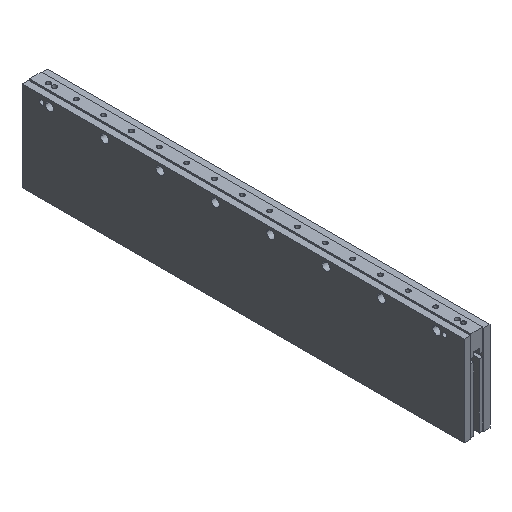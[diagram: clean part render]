
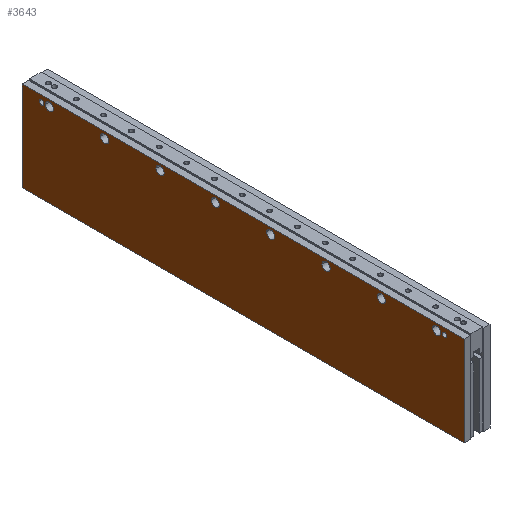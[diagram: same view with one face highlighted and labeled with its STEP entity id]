
A CAD part, isometric view. The second image highlights one B-rep face of the part: STEP entity #3643.
In plain terms, the highlighted planar face has unit normal (-1, 0, 0).
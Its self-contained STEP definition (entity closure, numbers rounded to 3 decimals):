
#709=DIRECTION('',(0.,0.,1.));
#710=VECTOR('',#709,103.97);
#711=CARTESIAN_POINT('',(-15.,255.65,-105.2));
#712=LINE('',#711,#710);
#757=DIRECTION('',(0.,0.,1.));
#758=VECTOR('',#757,103.97);
#759=CARTESIAN_POINT('',(-15.,-255.65,-105.2));
#760=LINE('',#759,#758);
#920=CARTESIAN_POINT('',(-15.,-224.,-8.23));
#921=DIRECTION('',(-1.,0.,0.));
#922=DIRECTION('',(0.,1.,0.));
#923=AXIS2_PLACEMENT_3D('',#920,#921,#922);
#925=CARTESIAN_POINT('',(-15.,-224.,-8.23));
#926=DIRECTION('',(-1.,0.,0.));
#927=DIRECTION('',(0.,-1.,0.));
#928=AXIS2_PLACEMENT_3D('',#925,#926,#927);
#930=CARTESIAN_POINT('',(-15.,-160.,-8.23));
#931=DIRECTION('',(-1.,0.,0.));
#932=DIRECTION('',(0.,1.,0.));
#933=AXIS2_PLACEMENT_3D('',#930,#931,#932);
#935=CARTESIAN_POINT('',(-15.,-160.,-8.23));
#936=DIRECTION('',(-1.,0.,0.));
#937=DIRECTION('',(0.,-1.,0.));
#938=AXIS2_PLACEMENT_3D('',#935,#936,#937);
#940=CARTESIAN_POINT('',(-15.,-96.,-8.23));
#941=DIRECTION('',(-1.,0.,0.));
#942=DIRECTION('',(0.,1.,0.));
#943=AXIS2_PLACEMENT_3D('',#940,#941,#942);
#945=CARTESIAN_POINT('',(-15.,-96.,-8.23));
#946=DIRECTION('',(-1.,0.,0.));
#947=DIRECTION('',(0.,-1.,0.));
#948=AXIS2_PLACEMENT_3D('',#945,#946,#947);
#950=CARTESIAN_POINT('',(-15.,-32.,-8.23));
#951=DIRECTION('',(-1.,0.,0.));
#952=DIRECTION('',(0.,1.,0.));
#953=AXIS2_PLACEMENT_3D('',#950,#951,#952);
#955=CARTESIAN_POINT('',(-15.,-32.,-8.23));
#956=DIRECTION('',(-1.,0.,0.));
#957=DIRECTION('',(0.,-1.,0.));
#958=AXIS2_PLACEMENT_3D('',#955,#956,#957);
#960=CARTESIAN_POINT('',(-15.,32.,-8.23));
#961=DIRECTION('',(-1.,0.,0.));
#962=DIRECTION('',(0.,1.,0.));
#963=AXIS2_PLACEMENT_3D('',#960,#961,#962);
#965=CARTESIAN_POINT('',(-15.,32.,-8.23));
#966=DIRECTION('',(-1.,0.,0.));
#967=DIRECTION('',(0.,-1.,0.));
#968=AXIS2_PLACEMENT_3D('',#965,#966,#967);
#970=CARTESIAN_POINT('',(-15.,96.,-8.23));
#971=DIRECTION('',(-1.,0.,0.));
#972=DIRECTION('',(0.,1.,0.));
#973=AXIS2_PLACEMENT_3D('',#970,#971,#972);
#975=CARTESIAN_POINT('',(-15.,96.,-8.23));
#976=DIRECTION('',(-1.,0.,0.));
#977=DIRECTION('',(0.,-1.,0.));
#978=AXIS2_PLACEMENT_3D('',#975,#976,#977);
#980=CARTESIAN_POINT('',(-15.,160.,-8.23));
#981=DIRECTION('',(-1.,0.,0.));
#982=DIRECTION('',(0.,1.,0.));
#983=AXIS2_PLACEMENT_3D('',#980,#981,#982);
#985=CARTESIAN_POINT('',(-15.,160.,-8.23));
#986=DIRECTION('',(-1.,0.,0.));
#987=DIRECTION('',(0.,-1.,0.));
#988=AXIS2_PLACEMENT_3D('',#985,#986,#987);
#990=CARTESIAN_POINT('',(-15.,224.,-8.23));
#991=DIRECTION('',(-1.,0.,0.));
#992=DIRECTION('',(0.,1.,0.));
#993=AXIS2_PLACEMENT_3D('',#990,#991,#992);
#995=CARTESIAN_POINT('',(-15.,224.,-8.23));
#996=DIRECTION('',(-1.,0.,0.));
#997=DIRECTION('',(0.,-1.,0.));
#998=AXIS2_PLACEMENT_3D('',#995,#996,#997);
#1000=CARTESIAN_POINT('',(-15.,-233.,-8.23));
#1001=DIRECTION('',(1.,0.,0.));
#1002=DIRECTION('',(0.,1.,0.));
#1003=AXIS2_PLACEMENT_3D('',#1000,#1001,#1002);
#1005=CARTESIAN_POINT('',(-15.,-233.,-8.23));
#1006=DIRECTION('',(1.,0.,0.));
#1007=DIRECTION('',(0.,-1.,0.));
#1008=AXIS2_PLACEMENT_3D('',#1005,#1006,#1007);
#1010=CARTESIAN_POINT('',(-15.,233.,-8.23));
#1011=DIRECTION('',(1.,0.,0.));
#1012=DIRECTION('',(0.,1.,0.));
#1013=AXIS2_PLACEMENT_3D('',#1010,#1011,#1012);
#1015=CARTESIAN_POINT('',(-15.,233.,-8.23));
#1016=DIRECTION('',(1.,0.,0.));
#1017=DIRECTION('',(0.,-1.,0.));
#1018=AXIS2_PLACEMENT_3D('',#1015,#1016,#1017);
#1020=DIRECTION('',(0.,1.,0.));
#1021=VECTOR('',#1020,511.3);
#1022=CARTESIAN_POINT('',(-15.,-255.65,-1.23));
#1023=LINE('',#1022,#1021);
#1024=DIRECTION('',(0.,1.,0.));
#1025=VECTOR('',#1024,511.3);
#1026=CARTESIAN_POINT('',(-15.,-255.65,-105.2));
#1027=LINE('',#1026,#1025);
#1721=CARTESIAN_POINT('',(-15.,-255.65,-105.2));
#1722=CARTESIAN_POINT('',(-15.,255.65,-105.2));
#1723=VERTEX_POINT('',#1721);
#1724=VERTEX_POINT('',#1722);
#1733=CARTESIAN_POINT('',(-15.,-230.418,-8.23));
#1734=CARTESIAN_POINT('',(-15.,-235.583,-8.23));
#1735=VERTEX_POINT('',#1733);
#1736=VERTEX_POINT('',#1734);
#1745=CARTESIAN_POINT('',(-15.,-219.325,-8.23));
#1746=CARTESIAN_POINT('',(-15.,-228.675,-8.23));
#1747=VERTEX_POINT('',#1745);
#1748=VERTEX_POINT('',#1746);
#1757=CARTESIAN_POINT('',(-15.,-255.65,-1.23));
#1758=CARTESIAN_POINT('',(-15.,255.65,-1.23));
#1759=VERTEX_POINT('',#1757);
#1760=VERTEX_POINT('',#1758);
#1817=CARTESIAN_POINT('',(-15.,235.583,-8.23));
#1818=CARTESIAN_POINT('',(-15.,230.418,-8.23));
#1819=VERTEX_POINT('',#1817);
#1820=VERTEX_POINT('',#1818);
#1845=CARTESIAN_POINT('',(-15.,-155.325,-8.23));
#1846=CARTESIAN_POINT('',(-15.,-164.675,-8.23));
#1847=VERTEX_POINT('',#1845);
#1848=VERTEX_POINT('',#1846);
#1857=CARTESIAN_POINT('',(-15.,-91.325,-8.23));
#1858=CARTESIAN_POINT('',(-15.,-100.675,-8.23));
#1859=VERTEX_POINT('',#1857);
#1860=VERTEX_POINT('',#1858);
#1869=CARTESIAN_POINT('',(-15.,-27.325,-8.23));
#1870=CARTESIAN_POINT('',(-15.,-36.675,-8.23));
#1871=VERTEX_POINT('',#1869);
#1872=VERTEX_POINT('',#1870);
#1881=CARTESIAN_POINT('',(-15.,36.675,-8.23));
#1882=CARTESIAN_POINT('',(-15.,27.325,-8.23));
#1883=VERTEX_POINT('',#1881);
#1884=VERTEX_POINT('',#1882);
#1893=CARTESIAN_POINT('',(-15.,100.675,-8.23));
#1894=CARTESIAN_POINT('',(-15.,91.325,-8.23));
#1895=VERTEX_POINT('',#1893);
#1896=VERTEX_POINT('',#1894);
#1905=CARTESIAN_POINT('',(-15.,164.675,-8.23));
#1906=CARTESIAN_POINT('',(-15.,155.325,-8.23));
#1907=VERTEX_POINT('',#1905);
#1908=VERTEX_POINT('',#1906);
#1917=CARTESIAN_POINT('',(-15.,228.675,-8.23));
#1918=CARTESIAN_POINT('',(-15.,219.325,-8.23));
#1919=VERTEX_POINT('',#1917);
#1920=VERTEX_POINT('',#1918);
#3571=CARTESIAN_POINT('',(-15.,-255.65,-105.2));
#3572=DIRECTION('',(-1.,0.,0.));
#3573=DIRECTION('',(0.,0.,1.));
#3574=AXIS2_PLACEMENT_3D('',#3571,#3572,#3573);
#3575=PLANE('',#3574);
#3577=ORIENTED_EDGE('',*,*,#3576,.F.);
#3578=ORIENTED_EDGE('',*,*,#3375,.F.);
#3580=ORIENTED_EDGE('',*,*,#3579,.T.);
#3581=ORIENTED_EDGE('',*,*,#3311,.T.);
#3582=EDGE_LOOP('',(#3577,#3578,#3580,#3581));
#3583=FACE_OUTER_BOUND('',#3582,.F.);
#3584=ORIENTED_EDGE('',*,*,#3561,.T.);
#3586=ORIENTED_EDGE('',*,*,#3585,.T.);
#3587=EDGE_LOOP('',(#3584,#3586));
#3588=FACE_BOUND('',#3587,.F.);
#3590=ORIENTED_EDGE('',*,*,#3589,.T.);
#3592=ORIENTED_EDGE('',*,*,#3591,.T.);
#3593=EDGE_LOOP('',(#3590,#3592));
#3594=FACE_BOUND('',#3593,.F.);
#3596=ORIENTED_EDGE('',*,*,#3595,.T.);
#3598=ORIENTED_EDGE('',*,*,#3597,.T.);
#3599=EDGE_LOOP('',(#3596,#3598));
#3600=FACE_BOUND('',#3599,.F.);
#3602=ORIENTED_EDGE('',*,*,#3601,.T.);
#3604=ORIENTED_EDGE('',*,*,#3603,.T.);
#3605=EDGE_LOOP('',(#3602,#3604));
#3606=FACE_BOUND('',#3605,.F.);
#3608=ORIENTED_EDGE('',*,*,#3607,.T.);
#3610=ORIENTED_EDGE('',*,*,#3609,.T.);
#3611=EDGE_LOOP('',(#3608,#3610));
#3612=FACE_BOUND('',#3611,.F.);
#3614=ORIENTED_EDGE('',*,*,#3613,.T.);
#3616=ORIENTED_EDGE('',*,*,#3615,.T.);
#3617=EDGE_LOOP('',(#3614,#3616));
#3618=FACE_BOUND('',#3617,.F.);
#3620=ORIENTED_EDGE('',*,*,#3619,.T.);
#3622=ORIENTED_EDGE('',*,*,#3621,.T.);
#3623=EDGE_LOOP('',(#3620,#3622));
#3624=FACE_BOUND('',#3623,.F.);
#3626=ORIENTED_EDGE('',*,*,#3625,.T.);
#3628=ORIENTED_EDGE('',*,*,#3627,.T.);
#3629=EDGE_LOOP('',(#3626,#3628));
#3630=FACE_BOUND('',#3629,.F.);
#3632=ORIENTED_EDGE('',*,*,#3631,.F.);
#3634=ORIENTED_EDGE('',*,*,#3633,.F.);
#3635=EDGE_LOOP('',(#3632,#3634));
#3636=FACE_BOUND('',#3635,.F.);
#3638=ORIENTED_EDGE('',*,*,#3637,.F.);
#3640=ORIENTED_EDGE('',*,*,#3639,.F.);
#3641=EDGE_LOOP('',(#3638,#3640));
#3642=FACE_BOUND('',#3641,.F.);
#3643=ADVANCED_FACE('',(#3583,#3588,#3594,#3600,#3606,#3612,#3618,#3624,#3630,
#3636,#3642),#3575,.T.);
#924=CIRCLE('',#923,4.675);
#929=CIRCLE('',#928,4.675);
#934=CIRCLE('',#933,4.675);
#939=CIRCLE('',#938,4.675);
#944=CIRCLE('',#943,4.675);
#949=CIRCLE('',#948,4.675);
#954=CIRCLE('',#953,4.675);
#959=CIRCLE('',#958,4.675);
#964=CIRCLE('',#963,4.675);
#969=CIRCLE('',#968,4.675);
#974=CIRCLE('',#973,4.675);
#979=CIRCLE('',#978,4.675);
#984=CIRCLE('',#983,4.675);
#989=CIRCLE('',#988,4.675);
#994=CIRCLE('',#993,4.675);
#999=CIRCLE('',#998,4.675);
#1004=CIRCLE('',#1003,2.583);
#1009=CIRCLE('',#1008,2.583);
#1014=CIRCLE('',#1013,2.583);
#1019=CIRCLE('',#1018,2.583);
#3311=EDGE_CURVE('',#1724,#1760,#712,.T.);
#3375=EDGE_CURVE('',#1723,#1759,#760,.T.);
#3561=EDGE_CURVE('',#1747,#1748,#924,.T.);
#3576=EDGE_CURVE('',#1759,#1760,#1023,.T.);
#3579=EDGE_CURVE('',#1723,#1724,#1027,.T.);
#3585=EDGE_CURVE('',#1748,#1747,#929,.T.);
#3589=EDGE_CURVE('',#1847,#1848,#934,.T.);
#3591=EDGE_CURVE('',#1848,#1847,#939,.T.);
#3595=EDGE_CURVE('',#1859,#1860,#944,.T.);
#3597=EDGE_CURVE('',#1860,#1859,#949,.T.);
#3601=EDGE_CURVE('',#1871,#1872,#954,.T.);
#3603=EDGE_CURVE('',#1872,#1871,#959,.T.);
#3607=EDGE_CURVE('',#1883,#1884,#964,.T.);
#3609=EDGE_CURVE('',#1884,#1883,#969,.T.);
#3613=EDGE_CURVE('',#1895,#1896,#974,.T.);
#3615=EDGE_CURVE('',#1896,#1895,#979,.T.);
#3619=EDGE_CURVE('',#1907,#1908,#984,.T.);
#3621=EDGE_CURVE('',#1908,#1907,#989,.T.);
#3625=EDGE_CURVE('',#1919,#1920,#994,.T.);
#3627=EDGE_CURVE('',#1920,#1919,#999,.T.);
#3631=EDGE_CURVE('',#1735,#1736,#1004,.T.);
#3633=EDGE_CURVE('',#1736,#1735,#1009,.T.);
#3637=EDGE_CURVE('',#1819,#1820,#1014,.T.);
#3639=EDGE_CURVE('',#1820,#1819,#1019,.T.);
